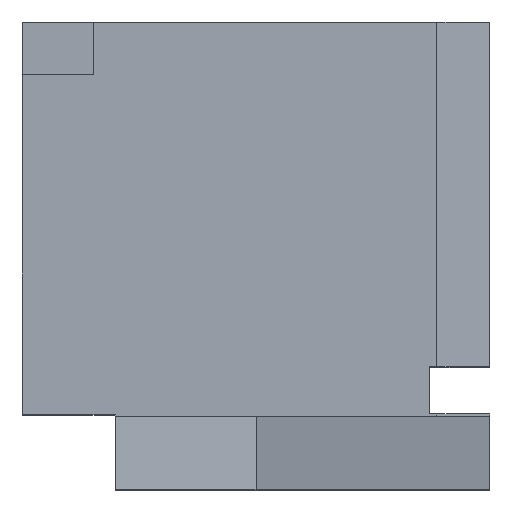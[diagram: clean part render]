
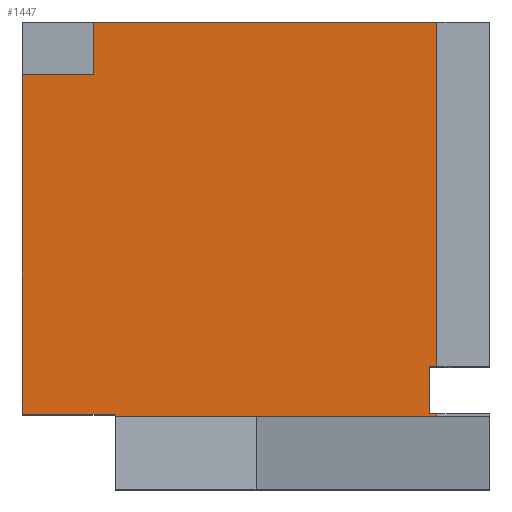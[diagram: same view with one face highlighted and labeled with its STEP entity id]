
A CAD part, top view. The second image highlights one B-rep face of the part: STEP entity #1447.
In plain terms, the highlighted planar face has unit normal (0, 0, 1).
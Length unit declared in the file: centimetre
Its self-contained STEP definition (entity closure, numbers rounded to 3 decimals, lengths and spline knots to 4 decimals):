
#4 = VERTEX_POINT ( 'NONE', #1261 ) ;
#7 = EDGE_CURVE ( 'NONE', #554, #200, #580, .T. ) ;
#8 = VERTEX_POINT ( 'NONE', #845 ) ;
#10 = CARTESIAN_POINT ( 'NONE',  ( 198.5776, 0., 1000. ) ) ;
#43 = DIRECTION ( 'NONE',  ( 0., 1., 0. ) ) ;
#56 = LINE ( 'NONE', #1342, #549 ) ;
#62 = DIRECTION ( 'NONE',  ( -1., 0., 0. ) ) ;
#64 = VECTOR ( 'NONE', #536, 100. ) ;
#66 = CARTESIAN_POINT ( 'NONE',  ( 871.8282, 261.979, 1000. ) ) ;
#75 = CARTESIAN_POINT ( 'NONE',  ( 887.1843, 1000., 1000. ) ) ;
#89 = VERTEX_POINT ( 'NONE', #297 ) ;
#95 = DIRECTION ( 'NONE',  ( -1., 0., 0. ) ) ;
#145 = LINE ( 'NONE', #1176, #1237 ) ;
#153 = DIRECTION ( 'NONE',  ( 0., 1., 0. ) ) ;
#200 = VERTEX_POINT ( 'NONE', #531 ) ;
#210 = PLANE ( 'NONE',  #1325 ) ;
#237 = LINE ( 'NONE', #700, #1451 ) ;
#273 = CARTESIAN_POINT ( 'NONE',  ( 887.1843, 1000., 1000. ) ) ;
#280 = EDGE_CURVE ( 'NONE', #4, #835, #1341, .T. ) ;
#286 = CARTESIAN_POINT ( 'NONE',  ( 0., 1000., 1000. ) ) ;
#297 = CARTESIAN_POINT ( 'NONE',  ( 871.8282, 261.979, 1000. ) ) ;
#321 = LINE ( 'NONE', #992, #1082 ) ;
#334 = CARTESIAN_POINT ( 'NONE',  ( 0., 156.3015, 1000. ) ) ;
#343 = LINE ( 'NONE', #1063, #551 ) ;
#360 = VERTEX_POINT ( 'NONE', #909 ) ;
#370 = ORIENTED_EDGE ( 'NONE', *, *, #1252, .T. ) ;
#372 = CARTESIAN_POINT ( 'NONE',  ( 871.8282, 161.2154, 1000. ) ) ;
#383 = CARTESIAN_POINT ( 'NONE',  ( 198.5776, 160.1912, 1000. ) ) ;
#389 = DIRECTION ( 'NONE',  ( 0., -1., 0. ) ) ;
#392 = CARTESIAN_POINT ( 'NONE',  ( 152.5254, 887.6033, 1000. ) ) ;
#403 = ORIENTED_EDGE ( 'NONE', *, *, #993, .T. ) ;
#447 = EDGE_CURVE ( 'NONE', #1019, #4, #514, .T. ) ;
#457 = ORIENTED_EDGE ( 'NONE', *, *, #1336, .T. ) ;
#465 = VERTEX_POINT ( 'NONE', #392 ) ;
#514 = LINE ( 'NONE', #273, #639 ) ;
#531 = CARTESIAN_POINT ( 'NONE',  ( 198.5776, 156.3015, 1000. ) ) ;
#536 = DIRECTION ( 'NONE',  ( 1., 0., 0. ) ) ;
#540 = EDGE_CURVE ( 'NONE', #8, #554, #145, .T. ) ;
#549 = VECTOR ( 'NONE', #1440, 100. ) ;
#551 = VECTOR ( 'NONE', #153, 100. ) ;
#554 = VERTEX_POINT ( 'NONE', #383 ) ;
#580 = LINE ( 'NONE', #10, #764 ) ;
#589 = DIRECTION ( 'NONE',  ( 0., 1., 0. ) ) ;
#605 = DIRECTION ( 'NONE',  ( 1., 0., 0. ) ) ;
#606 = ORIENTED_EDGE ( 'NONE', *, *, #447, .T. ) ;
#639 = VECTOR ( 'NONE', #43, 100. ) ;
#646 = VECTOR ( 'NONE', #1367, 100. ) ;
#700 = CARTESIAN_POINT ( 'NONE',  ( 152.5254, 887.6033, 1000. ) ) ;
#703 = EDGE_CURVE ( 'NONE', #89, #1000, #1111, .T. ) ;
#706 = ORIENTED_EDGE ( 'NONE', *, *, #1024, .F. ) ;
#752 = VERTEX_POINT ( 'NONE', #1339 ) ;
#762 = DIRECTION ( 'NONE',  ( 1., 0., 0. ) ) ;
#764 = VECTOR ( 'NONE', #389, 100. ) ;
#784 = ORIENTED_EDGE ( 'NONE', *, *, #540, .T. ) ;
#807 = LINE ( 'NONE', #1150, #1353 ) ;
#834 = ORIENTED_EDGE ( 'NONE', *, *, #280, .T. ) ;
#835 = VERTEX_POINT ( 'NONE', #372 ) ;
#845 = CARTESIAN_POINT ( 'NONE',  ( 0., 160.1912, 1000. ) ) ;
#860 = ORIENTED_EDGE ( 'NONE', *, *, #914, .T. ) ;
#885 = VECTOR ( 'NONE', #95, 100. ) ;
#899 = CARTESIAN_POINT ( 'NONE',  ( 871.8282, 161.2154, 1000. ) ) ;
#909 = CARTESIAN_POINT ( 'NONE',  ( 152.5254, 1000., 1000. ) ) ;
#914 = EDGE_CURVE ( 'NONE', #1000, #1078, #807, .T. ) ;
#947 = CARTESIAN_POINT ( 'NONE',  ( 887.1843, 261.979, 1000. ) ) ;
#992 = CARTESIAN_POINT ( 'NONE',  ( 0., 887.6033, 1000. ) ) ;
#993 = EDGE_CURVE ( 'NONE', #835, #89, #343, .T. ) ;
#1000 = VERTEX_POINT ( 'NONE', #947 ) ;
#1016 = DIRECTION ( 'NONE',  ( 0., 0., 1. ) ) ;
#1019 = VERTEX_POINT ( 'NONE', #1267 ) ;
#1024 = EDGE_CURVE ( 'NONE', #465, #360, #237, .T. ) ;
#1040 = EDGE_LOOP ( 'NONE', ( #1088, #1226, #606, #834, #403, #1044, #860, #457, #706, #1295, #370, #784 ) ) ;
#1044 = ORIENTED_EDGE ( 'NONE', *, *, #703, .T. ) ;
#1063 = CARTESIAN_POINT ( 'NONE',  ( 871.8282, 161.2154, 1000. ) ) ;
#1078 = VERTEX_POINT ( 'NONE', #75 ) ;
#1082 = VECTOR ( 'NONE', #1462, 100. ) ;
#1088 = ORIENTED_EDGE ( 'NONE', *, *, #7, .T. ) ;
#1091 = EDGE_CURVE ( 'NONE', #752, #465, #321, .T. ) ;
#1109 = DIRECTION ( 'NONE',  ( 0., 1., 0. ) ) ;
#1111 = LINE ( 'NONE', #66, #64 ) ;
#1150 = CARTESIAN_POINT ( 'NONE',  ( 887.1843, 1000., 1000. ) ) ;
#1176 = CARTESIAN_POINT ( 'NONE',  ( 0., 160.1912, 1000. ) ) ;
#1204 = LINE ( 'NONE', #286, #1242 ) ;
#1226 = ORIENTED_EDGE ( 'NONE', *, *, #1476, .F. ) ;
#1228 = CARTESIAN_POINT ( 'NONE',  ( 0., 0., 1000. ) ) ;
#1234 = FACE_OUTER_BOUND ( 'NONE', #1040, .T. ) ;
#1237 = VECTOR ( 'NONE', #605, 100. ) ;
#1242 = VECTOR ( 'NONE', #62, 100. ) ;
#1252 = EDGE_CURVE ( 'NONE', #752, #8, #56, .T. ) ;
#1261 = CARTESIAN_POINT ( 'NONE',  ( 887.1843, 161.2154, 1000. ) ) ;
#1267 = CARTESIAN_POINT ( 'NONE',  ( 887.1843, 156.3015, 1000. ) ) ;
#1295 = ORIENTED_EDGE ( 'NONE', *, *, #1091, .F. ) ;
#1325 = AXIS2_PLACEMENT_3D ( 'NONE', #1228, #1016, #762 ) ;
#1336 = EDGE_CURVE ( 'NONE', #1078, #360, #1204, .T. ) ;
#1339 = CARTESIAN_POINT ( 'NONE',  ( 0., 887.6033, 1000. ) ) ;
#1341 = LINE ( 'NONE', #899, #646 ) ;
#1342 = CARTESIAN_POINT ( 'NONE',  ( 0., 1000., 1000. ) ) ;
#1353 = VECTOR ( 'NONE', #589, 100. ) ;
#1367 = DIRECTION ( 'NONE',  ( -1., 0., 0. ) ) ;
#1440 = DIRECTION ( 'NONE',  ( 0., -1., 0. ) ) ;
#1447 = ADVANCED_FACE ( 'NONE', ( #1234 ), #210, .T. ) ;
#1451 = VECTOR ( 'NONE', #1109, 100. ) ;
#1462 = DIRECTION ( 'NONE',  ( 1., 0., 0. ) ) ;
#1473 = LINE ( 'NONE', #334, #885 ) ;
#1476 = EDGE_CURVE ( 'NONE', #1019, #200, #1473, .T. ) ;
